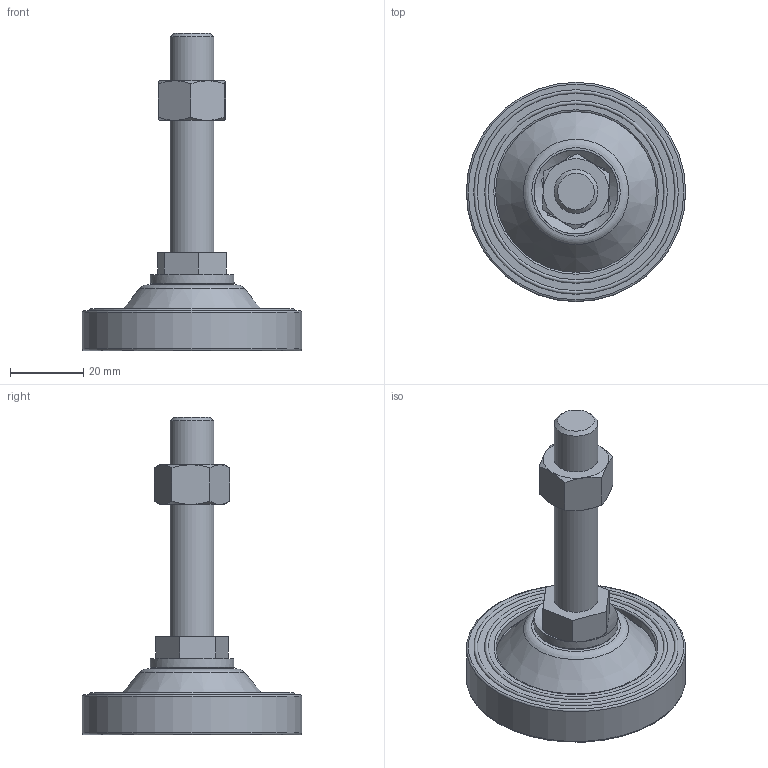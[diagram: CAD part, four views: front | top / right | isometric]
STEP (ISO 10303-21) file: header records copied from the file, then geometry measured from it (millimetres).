
FILE_DESCRIPTION((' '),'2;1');
FILE_NAME('Y:\00. A standard brand\06. 3D Modeling\외부전송용_STEP\LEVELLING FOOT(STEP)\A-PLR SERIES STEP\A-PLR-12-60.stp.stp','2011-11-22T18:36:57',(' '),(' '),' ','ACIS',' ');
FILE_SCHEMA(('CONFIG_CONTROL_DESIGN'));
Length unit declared in the file: millimetre
Products named in the file (1): Y:\00. A standard brand\06. 3D Modeling\외부전송용_STEP\LEVELLING FOOT(STEP)\A-PLR SERIES STEP\A-PLR-12-60.stp.stp
Bounding box: 60 x 60 x 86.85 mm (x, y, z)
Volume: 39396 mm3; surface area: 17906.8 mm2
Topology: 2 solids, 3 shells, 116 faces, 264 edges, 166 vertices
Faces by surface type: plane 54, cylinder 20, cone 17, torus 15, bspline 10
Full cylindrical faces by diameter (mm): 8 x1, 12 x4, 16 x1, 19.27 x1, 23 x1, 31 x1, 44 x2, 60 x1
Entity records: 3468 total; most frequent: CARTESIAN_POINT 1043, DIRECTION 478, ORIENTED_EDGE 428, EDGE_CURVE 214, AXIS2_PLACEMENT_3D 193, EDGE_LOOP 164, VERTEX_POINT 152, FACE_OUTER_BOUND 116
